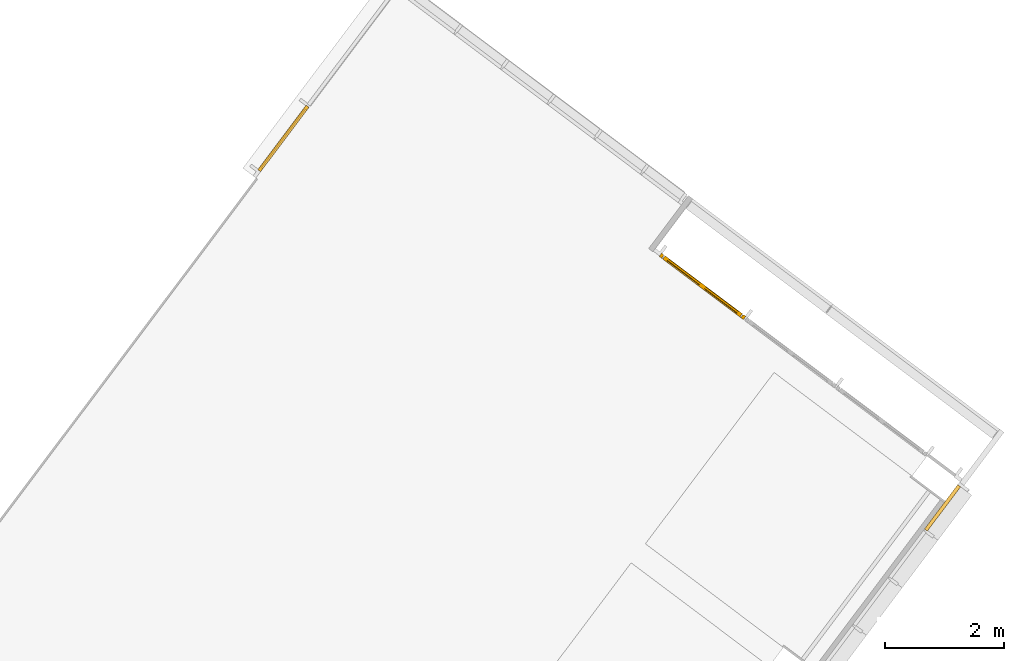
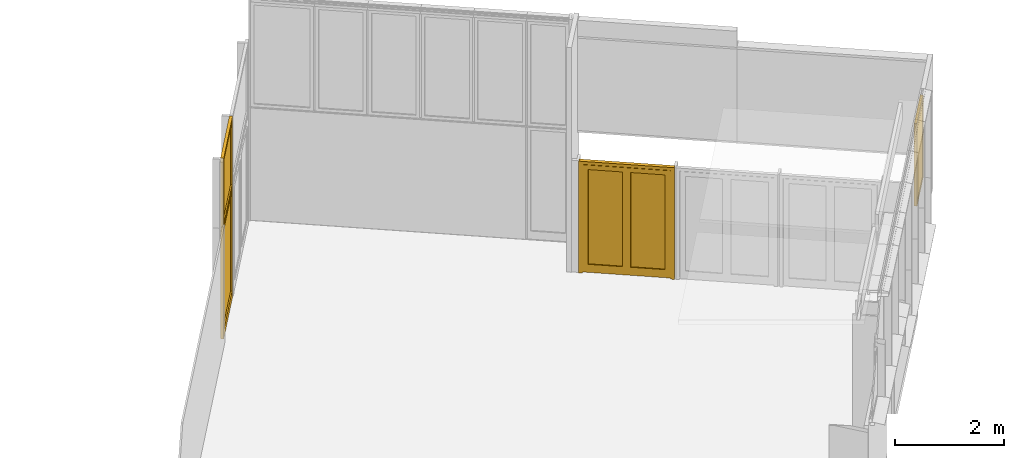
# One storey, part 12 of 15: 3 windows, 1 door, 3 elements without a shape of their own.
"""IFC2X3 building model written with IfcOpenShell, lengths in metres."""

import ifcopenshell
import ifcopenshell.guid

model = None  # the IFC model being written
_history = None  # IfcOwnerHistory: only IFC2X3 demands one
_inside = {}  # id of a spatial element -> (the spatial element, [elements in it])
_under = {}  # id of a project, library or spatial element -> (it, [spatial elements below it])
_declared = {}  # id of a project -> (the project, [libraries it declares])
_typed = {}  # id of a type object -> (the type object, [elements of that type])
_made_of = {}  # id of a material, layer set ... -> (it, [elements and type objects made of it])


def new_model(schema):
    """Start an empty IFC model of exactly this schema.

    Asked for "IFC4X3", IfcOpenShell would pick the latest addendum, in which some entities
    have other attributes; the version numbers below select the first issue.
    IFC2X3 requires an IfcOwnerHistory on every rooted entity: one is made here for all.
    """
    global model, _history
    if schema == "IFC4X3":
        model = ifcopenshell.file(schema_version=(4, 3, 0, 0))
    else:
        model = ifcopenshell.file(schema=schema)
    _inside.clear()
    _under.clear()
    _declared.clear()
    _typed.clear()
    _made_of.clear()
    _history = None
    if model.schema == "IFC2X3":
        org = make("IfcOrganization", Name="unknown")
        user = make(
            "IfcPersonAndOrganization",
            ThePerson=make("IfcPerson", FamilyName="unknown"),
            TheOrganization=org,
        )
        app = make(
            "IfcApplication",
            ApplicationDeveloper=org,
            Version="unknown",
            ApplicationFullName="unknown",
            ApplicationIdentifier="unknown",
        )
        _history = make(
            "IfcOwnerHistory",
            OwningUser=user,
            OwningApplication=app,
            ChangeAction="ADDED",
            CreationDate=0,
        )
    return model


def make(cls, **values):
    """One entity of the class cls with the attributes given. An attribute that is None is left unset."""
    return model.create_entity(
        cls, **{name: value for name, value in values.items() if value is not None}
    )


def entity(cls, *values):
    """Any entity or typed value of the class cls, its attributes in the order of the schema. None: left unset."""
    e = model.create_entity(cls)
    for i, value in enumerate(values):
        if value is not None:
            e[i] = value
    return e


def rooted(cls, **values):
    """An entity with a GlobalId (a new one), such as an element, a storey or a relation."""
    return make(cls, GlobalId=ifcopenshell.guid.new(), OwnerHistory=_history, **values)


def si_unit(unit_type, name, prefix=None):
    """IfcSIUnit, for example si_unit("LENGTHUNIT", "METRE", prefix="MILLI")."""
    return make("IfcSIUnit", UnitType=unit_type, Prefix=prefix, Name=name)


def converted_unit(unit_type, name, factor, base, dimensions=None, offset=None):
    """IfcConversionBasedUnit, such as the inch: factor (a typed value) times the base unit."""
    return make(
        "IfcConversionBasedUnit"
        if offset is None
        else "IfcConversionBasedUnitWithOffset",
        ConversionOffset=offset,
        Dimensions=None
        if dimensions is None
        else entity("IfcDimensionalExponents", *dimensions),
        UnitType=unit_type,
        Name=name,
        ConversionFactor=make(
            "IfcMeasureWithUnit", ValueComponent=factor, UnitComponent=base
        ),
    )


def derived_unit(unit_type, elements):
    """IfcDerivedUnit: a product of units, each with its exponent."""
    return make(
        "IfcDerivedUnit",
        Elements=[
            make("IfcDerivedUnitElement", Unit=unit, Exponent=power)
            for unit, power in elements
        ],
        UnitType=unit_type,
    )


def assignment(units):
    """IfcUnitAssignment: the units of a project."""
    return None if units is None else make("IfcUnitAssignment", Units=units)


def point(xyz):
    """IfcCartesianPoint."""
    return None if xyz is None else make("IfcCartesianPoint", Coordinates=xyz)


def direction(xyz):
    """IfcDirection."""
    return None if xyz is None else make("IfcDirection", DirectionRatios=xyz)


def frame(location, z_axis=None, x_axis=None):
    """IfcAxis2Placement3D, a coordinate frame: its origin and axes. An axis left out is left unset."""
    return make(
        "IfcAxis2Placement3D",
        Location=point(location),
        Axis=direction(z_axis),
        RefDirection=direction(x_axis),
    )


def origin():
    """The frame at (0, 0, 0) with its axes left unset."""
    return frame((0.0, 0.0, 0.0))


def place(relative_to, where):
    """IfcLocalPlacement: puts the frame where relative to a parent placement (None: the world)."""
    return make(
        "IfcLocalPlacement", PlacementRelTo=relative_to, RelativePlacement=where
    )


def context(
    kind, dimensions, precision=None, world=None, true_north=None, identifier=None
):
    """IfcGeometricRepresentationContext, for example the 3D "Model" context."""
    return make(
        "IfcGeometricRepresentationContext",
        ContextIdentifier=identifier,
        ContextType=kind,
        CoordinateSpaceDimension=dimensions,
        Precision=precision,
        WorldCoordinateSystem=world,
        TrueNorth=true_north,
    )


def subcontext(parent, identifier, kind, view, scale=None):
    """IfcGeometricRepresentationSubContext, for example "Body" below "Model"."""
    return make(
        "IfcGeometricRepresentationSubContext",
        ContextIdentifier=identifier,
        ContextType=kind,
        ParentContext=parent,
        TargetScale=scale,
        TargetView=view,
    )


def project(units=None, contexts=None):
    """IfcProject with its units and contexts."""
    return rooted(
        "IfcProject",
        Name="project",
        RepresentationContexts=contexts,
        UnitsInContext=assignment(units),
    )


def spatial(cls, under=None, at=None, **own):
    """A site, building, storey or space (cls), placed at a placement, below another one or the project."""
    s = rooted(cls, ObjectPlacement=at, **own)
    if under is not None:
        _under.setdefault(under.id(), (under, []))[1].append(s)
    return s


def faces_of(points, faces, orient=None, outer=None):
    """IfcFace entities. A face is a list of loops; a loop is a list of indices into points, from 0.

    orient and outer hold one flag for each loop. By default every Orientation is true, the
    first loop of a face is its IfcFaceOuterBound and the others are IfcFaceBound.
    """
    made = []
    for i, loops in enumerate(faces):
        bounds = []
        for j, loop in enumerate(loops):
            is_outer = j == 0 if outer is None else outer[i][j]
            bounds.append(
                make(
                    "IfcFaceOuterBound" if is_outer else "IfcFaceBound",
                    Bound=make("IfcPolyLoop", Polygon=[points[k] for k in loop]),
                    Orientation=True if orient is None else orient[i][j],
                )
            )
        made.append(make("IfcFace", Bounds=bounds))
    return made


def faceted_brep(points, faces, orient=None, outer=None, voids=None):
    """IfcFacetedBrep: a solid bounded by flat faces; with voids (closed shells), ...WithVoids."""
    shared = [point(p) for p in points]
    hull = make("IfcClosedShell", CfsFaces=faces_of(shared, faces, orient, outer))
    if voids is None:
        return make("IfcFacetedBrep", Outer=hull)
    return make(
        "IfcFacetedBrepWithVoids",
        Outer=hull,
        Voids=[
            make(cls, CfsFaces=faces_of(shared, fs, o, b)) for cls, fs, o, b in voids
        ],
    )


def shape(context_of_items, identifier, shape_type, items):
    """IfcShapeRepresentation: the items that make up one representation, for example the "Body"."""
    return make(
        "IfcShapeRepresentation",
        ContextOfItems=context_of_items,
        RepresentationIdentifier=identifier,
        RepresentationType=shape_type,
        Items=items,
    )


def source(mapping_origin, context_of_items, identifier, shape_type, items):
    """IfcRepresentationMap: a shape defined once, which mapped items show again and again."""
    return make(
        "IfcRepresentationMap",
        MappingOrigin=mapping_origin,
        MappedRepresentation=shape(context_of_items, identifier, shape_type, items),
    )


def transform(
    local_origin,
    x_axis=None,
    y_axis=None,
    z_axis=None,
    scale=None,
    scale2=None,
    scale3=None,
    uniform=True,
):
    """IfcCartesianTransformationOperator3D, or its non-uniform kind. x_axis, y_axis, z_axis: its Axis1, 2, 3."""
    if uniform:
        return make(
            "IfcCartesianTransformationOperator3D",
            Axis1=direction(x_axis),
            Axis2=direction(y_axis),
            LocalOrigin=point(local_origin),
            Scale=scale,
            Axis3=direction(z_axis),
        )
    return make(
        "IfcCartesianTransformationOperator3DnonUniform",
        Axis1=direction(x_axis),
        Axis2=direction(y_axis),
        LocalOrigin=point(local_origin),
        Scale=scale,
        Axis3=direction(z_axis),
        Scale2=scale2,
        Scale3=scale3,
    )


def mapped(mapping_source, mapping_target):
    """IfcMappedItem: shows the shape of a source again, moved by a transform."""
    return make(
        "IfcMappedItem", MappingSource=mapping_source, MappingTarget=mapping_target
    )


def material(Name=None, Category=None):
    """IfcMaterial."""
    return make("IfcMaterial", Name=Name, Category=Category)


def material_list(materials):
    """IfcMaterialList."""
    return make("IfcMaterialList", Materials=materials)


def made_of(thing, what):
    """Note that an element or type object is made of a material, layer set ...; save() writes the relation."""
    if what is not None:
        _made_of.setdefault(what.id(), (what, []))[1].append(thing)
    return thing


def type_object(cls, material=None, **own):
    """A type object (cls), such as IfcWallType, which elements share."""
    return made_of(rooted(cls, **own), material)


def type_shapes(of_type, sources):
    """Give a type object the sources (RepresentationMaps) that its elements show as mapped items."""
    of_type.RepresentationMaps = sources


def element(
    cls,
    number,
    at=None,
    inside=None,
    cuts=None,
    type_object=None,
    material=None,
    context=None,
    identifier="Body",
    shape_type=None,
    held_by="IfcProductDefinitionShape",
    body=None,
    shapes=None,
    **own,
):
    """One element of the class cls, such as IfcWall. Its Tag is "e" and its number.

    at: its placement. inside: the storey or other place that contains it. cuts: it is an
    opening in that element (IfcRelVoidsElement). A single representation is given by context,
    identifier, shape_type and body (its items); several are given by shapes. held_by: the class
    of the entity that holds the representations. save() writes the other relations.
    """
    e = rooted(cls, Tag="e%d" % number, ObjectPlacement=at, **own)
    if body is not None:
        shapes = [shape(context, identifier, shape_type, body)]
    if shapes is not None:
        e.Representation = make(held_by, Representations=shapes)
    if inside is not None:
        _inside.setdefault(inside.id(), (inside, []))[1].append(e)
    if cuts is not None:
        rooted(
            "IfcRelVoidsElement", RelatingBuildingElement=cuts, RelatedOpeningElement=e
        )
    if type_object is not None:
        _typed.setdefault(type_object.id(), (type_object, []))[1].append(e)
    return made_of(e, material)


def aggregate(whole, parts):
    """IfcRelAggregates: a whole, such as a stair, and the parts it consists of."""
    return rooted("IfcRelAggregates", RelatingObject=whole, RelatedObjects=parts)


def save(model, path):
    """Write the relations noted so far, then the file.

    IfcRelAggregates (storeys below a building ...), IfcRelContainedInSpatialStructure (elements
    in a storey), IfcRelDefinesByType, IfcRelAssociatesMaterial and IfcRelDeclares: one each for
    every whole, place, type object, material and project.
    """
    for whole, parts in _under.values():
        aggregate(whole, parts)
    for where, things in _inside.values():
        rooted(
            "IfcRelContainedInSpatialStructure",
            RelatedElements=things,
            RelatingStructure=where,
        )
    for kind, things in _typed.values():
        rooted("IfcRelDefinesByType", RelatedObjects=things, RelatingType=kind)
    for what, things in _made_of.values():
        rooted("IfcRelAssociatesMaterial", RelatedObjects=things, RelatingMaterial=what)
    for by, libraries in _declared.values():
        rooted("IfcRelDeclares", RelatingContext=by, RelatedDefinitions=libraries)
    model.write(path)


model = new_model("IFC2X3")

# Units and contexts
model_context = context("Model", 3, precision=1e-05, world=origin(), true_north=direction((6.123031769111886e-17, 1.0)))
body_context = subcontext(model_context, "Body", "Model", "MODEL_VIEW")
ifc_project = project(units=[si_unit("LENGTHUNIT", "METRE"), si_unit("AREAUNIT", "SQUARE_METRE"), si_unit("VOLUMEUNIT", "CUBIC_METRE"), converted_unit("PLANEANGLEUNIT", "DEGREE", entity("IfcRatioMeasure", 0.017453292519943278), si_unit("PLANEANGLEUNIT", "RADIAN"), dimensions=[0, 0, 0, 0, 0, 0, 0]), si_unit("MASSUNIT", "GRAM", prefix="KILO"), derived_unit("MASSDENSITYUNIT", [(si_unit("MASSUNIT", "GRAM", prefix="KILO"), 1), (si_unit("LENGTHUNIT", "METRE"), -3)]), derived_unit("IONCONCENTRATIONUNIT", [(si_unit("MASSUNIT", "GRAM", prefix="KILO"), 1), (si_unit("LENGTHUNIT", "METRE"), -3)]), derived_unit("MOMENTOFINERTIAUNIT", [(si_unit("LENGTHUNIT", "METRE"), 4)]), si_unit("TIMEUNIT", "SECOND"), si_unit("FREQUENCYUNIT", "HERTZ"), si_unit("THERMODYNAMICTEMPERATUREUNIT", "DEGREE_CELSIUS"), derived_unit("THERMALTRANSMITTANCEUNIT", [(si_unit("MASSUNIT", "GRAM", prefix="KILO"), 1), (si_unit("THERMODYNAMICTEMPERATUREUNIT", "KELVIN"), -1), (si_unit("TIMEUNIT", "SECOND"), -3)]), derived_unit("THERMALCONDUCTANCEUNIT", [(si_unit("MASSUNIT", "GRAM", prefix="KILO"), 1), (si_unit("THERMODYNAMICTEMPERATUREUNIT", "KELVIN"), -1), (si_unit("TIMEUNIT", "SECOND"), -3), (si_unit("LENGTHUNIT", "METRE"), 1)]), derived_unit("VOLUMETRICFLOWRATEUNIT", [(si_unit("LENGTHUNIT", "METRE"), 3), (si_unit("TIMEUNIT", "SECOND"), -1)]), derived_unit("MASSFLOWRATEUNIT", [(si_unit("MASSUNIT", "GRAM", prefix="KILO"), 1), (si_unit("TIMEUNIT", "SECOND"), -1)]), derived_unit("ROTATIONALFREQUENCYUNIT", [(si_unit("TIMEUNIT", "SECOND"), -1)]), si_unit("ELECTRICCURRENTUNIT", "AMPERE"), si_unit("ELECTRICVOLTAGEUNIT", "VOLT"), si_unit("POWERUNIT", "WATT"), si_unit("FORCEUNIT", "NEWTON", prefix="KILO"), si_unit("ILLUMINANCEUNIT", "LUX"), si_unit("LUMINOUSFLUXUNIT", "LUMEN"), si_unit("LUMINOUSINTENSITYUNIT", "CANDELA"), derived_unit("USERDEFINED", [(si_unit("MASSUNIT", "GRAM", prefix="KILO"), -1), (si_unit("LENGTHUNIT", "METRE"), -2), (si_unit("TIMEUNIT", "SECOND"), 3), (si_unit("LUMINOUSFLUXUNIT", "LUMEN"), 1)]), derived_unit("USERDEFINED", [(si_unit("MASSUNIT", "GRAM", prefix="KILO"), 1), (si_unit("TIMEUNIT", "SECOND"), -3), (si_unit("LENGTHUNIT", "METRE"), 3), (si_unit("ELECTRICCURRENTUNIT", "AMPERE"), -2)]), derived_unit("SOUNDPOWERUNIT", [(si_unit("MASSUNIT", "GRAM", prefix="KILO"), 1), (si_unit("TIMEUNIT", "SECOND"), -3), (si_unit("LENGTHUNIT", "METRE"), 2)]), derived_unit("SOUNDPRESSUREUNIT", [(si_unit("MASSUNIT", "GRAM", prefix="KILO"), 1), (si_unit("LENGTHUNIT", "METRE"), -1), (si_unit("TIMEUNIT", "SECOND"), -2)]), derived_unit("LINEARVELOCITYUNIT", [(si_unit("LENGTHUNIT", "METRE"), 1), (si_unit("TIMEUNIT", "SECOND"), -1)]), si_unit("PRESSUREUNIT", "PASCAL"), derived_unit("USERDEFINED", [(si_unit("MASSUNIT", "GRAM", prefix="KILO"), 1), (si_unit("LENGTHUNIT", "METRE"), -2), (si_unit("TIMEUNIT", "SECOND"), -2)]), derived_unit("LINEARFORCEUNIT", [(si_unit("MASSUNIT", "GRAM", prefix="KILO"), 1), (si_unit("TIMEUNIT", "SECOND"), -2)]), derived_unit("PLANARFORCEUNIT", [(si_unit("MASSUNIT", "GRAM", prefix="KILO"), 1), (si_unit("LENGTHUNIT", "METRE"), -1), (si_unit("TIMEUNIT", "SECOND"), -2)]), derived_unit("SPECIFICHEATCAPACITYUNIT", [(si_unit("THERMODYNAMICTEMPERATUREUNIT", "KELVIN"), -1), (si_unit("LENGTHUNIT", "METRE"), 2), (si_unit("TIMEUNIT", "SECOND"), -2)]), derived_unit("HEATINGVALUEUNIT", [(si_unit("LENGTHUNIT", "METRE"), 2), (si_unit("TIMEUNIT", "SECOND"), -2)]), derived_unit("VAPORPERMEABILITYUNIT", [(si_unit("LENGTHUNIT", "METRE"), -1), (si_unit("TIMEUNIT", "SECOND"), 1)]), derived_unit("DYNAMICVISCOSITYUNIT", [(si_unit("MASSUNIT", "GRAM", prefix="KILO"), 1), (si_unit("TIMEUNIT", "SECOND"), -1), (si_unit("LENGTHUNIT", "METRE"), -1)]), derived_unit("THERMALEXPANSIONCOEFFICIENTUNIT", [(si_unit("THERMODYNAMICTEMPERATUREUNIT", "KELVIN"), -1)]), derived_unit("MODULUSOFELASTICITYUNIT", [(si_unit("MASSUNIT", "GRAM", prefix="KILO"), 1), (si_unit("LENGTHUNIT", "METRE"), -1), (si_unit("TIMEUNIT", "SECOND"), -2)]), derived_unit("ISOTHERMALMOISTURECAPACITYUNIT", [(si_unit("LENGTHUNIT", "METRE"), 3), (si_unit("MASSUNIT", "GRAM", prefix="KILO"), -1)]), derived_unit("MOISTUREDIFFUSIVITYUNIT", [(si_unit("TIMEUNIT", "SECOND"), -1), (si_unit("LENGTHUNIT", "METRE"), 2)])], contexts=[model_context])

# Site, building, storey
site_placement = place(None, frame((0.0, 0.0, 235.0), z_axis=(0.0, 0.0, 1.0), x_axis=(-0.7996477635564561, 0.6004693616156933, 0.0)))
site = spatial("IfcSite", under=ifc_project, at=site_placement, Name="Default", CompositionType="ELEMENT")
building_placement = place(site_placement, origin())
building = spatial("IfcBuilding", under=site, at=building_placement, CompositionType="ELEMENT")
storey_placement = place(building_placement, frame((0.0, 0.0, -5.4499999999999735)))
storey = spatial("IfcBuildingStorey", under=building, at=storey_placement, Name="PS1- Gimnàs", CompositionType="ELEMENT", Elevation=-5.4499999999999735)

# Curtain wall, windows
curtain_wall_type_1 = type_object("IfcCurtainWallType", Name="Muro cortina:MC- EXT- MCv1- Portes", PredefinedType="NOTDEFINED")
curtain_wall_1_placement = place(storey_placement, frame((0.0, 0.0, 5.4499999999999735)))
curtain_wall_1 = element("IfcCurtainWall", 1, at=curtain_wall_1_placement, inside=storey, type_object=curtain_wall_type_1, Name="Muro cortina:MC- EXT- MCv1- Portes", ObjectType="Muro cortina:MC- EXT- MCv1- Portes")
ifc_material_1 = material(Name="_Alumini- T1- Perfil")
ifc_material_2 = material(Name="_Vidre")
ifc_material_list_1 = material_list([ifc_material_1, ifc_material_2])
window_style_1 = type_object("IfcWindowStyle", Name="MC- Alu- Conjunt vidre fix- 62x60 cm- +15cm:MC- Alu- Conjunt vidre fix- 62x60 cm- +15cm", ConstructionType="NOTDEFINED", OperationType="NOTDEFINED", ParameterTakesPrecedence=False, Sizeable=False, material=ifc_material_list_1)
shared_shape_1 = source(origin(), body_context, "Body", "Brep", [
    faceted_brep([(0.6768749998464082, -0.05999999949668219, 0.0), (0.6768749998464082, 0.0, 0.0), (0.6768749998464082, 0.0, 2.499999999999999), (0.6768749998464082, -0.059999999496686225, 2.499999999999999), (-0.6768749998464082, 0.0, 0.0), (-0.6768749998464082, -0.05999999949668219, 0.0), (-0.6768749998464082, 0.0, 2.499999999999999), (-0.6140681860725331, 0.0, 0.1800028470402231), (0.6140681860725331, 0.0, 0.1800028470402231), (0.6140681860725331, 0.0, 2.437193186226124), (-0.6140681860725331, 0.0, 2.437193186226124), (-0.6768749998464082, -0.05999999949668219, 2.499999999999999), (0.6140710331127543, -0.05999999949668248, 0.18000000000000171), (-0.6140710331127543, -0.05999999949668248, 0.18000000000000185), (-0.6140710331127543, -0.05999999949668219, 2.4371960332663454), (0.6140710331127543, -0.05999999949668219, 2.4371960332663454), (-0.6140681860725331, -0.00760005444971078, 0.180002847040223), (0.6140681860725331, -0.007600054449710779, 0.18000284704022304), (0.6140681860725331, -0.007600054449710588, 2.437193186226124), (-0.6140681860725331, -0.007600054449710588, 2.437193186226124), (0.6280682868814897, -0.0076000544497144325, 2.4511932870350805), (-0.6280682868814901, -0.0076000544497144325, 2.4511932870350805), (-0.6280682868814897, -0.0076000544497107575, 0.16619603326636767), (0.6280682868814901, -0.0076000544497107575, 0.16619603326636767), (-0.6280682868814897, -0.031600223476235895, 2.4511932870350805), (-0.6280682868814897, -0.03160022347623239, 0.16619603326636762), (0.6280682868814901, -0.03160022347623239, 0.16619603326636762), (0.6280682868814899, -0.03160022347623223, 2.4511932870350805), (-0.6140710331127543, -0.03160022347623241, 0.1800000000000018), (0.6140710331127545, -0.03160022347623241, 0.1800000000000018), (0.6140710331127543, -0.031600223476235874, 2.4371960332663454), (-0.6140710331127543, -0.031600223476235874, 2.4371960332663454)], [[[0, 1, 2, 3]], [[4, 1, 0, 5]], [[2, 1, 4, 6], [7, 8, 9, 10]], [[0, 3, 11, 5], [12, 13, 14, 15]], [[11, 6, 4, 5]], [[8, 7, 16, 17]], [[18, 9, 8, 17]], [[10, 19, 16, 7]], [[17, 16, 19, 18], [20, 21, 22, 23]], [[22, 21, 24, 25]], [[23, 22, 25, 26]], [[26, 27, 20, 23]], [[28, 29, 30, 31], [24, 27, 26, 25]], [[29, 28, 13, 12]], [[15, 30, 29, 12]], [[31, 14, 13, 28]], [[3, 2, 6, 11]], [[9, 18, 19, 10]], [[20, 27, 24, 21]], [[30, 15, 14, 31]]], outer=[[True], [True], [True, False], [True, False], [True], [True], [True], [True], [False, True], [True], [True], [True], [False, True], [True], [True], [True], [True], [True], [True], [True]]),
    faceted_brep([(-0.6280682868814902, -0.007600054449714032, 0.1661960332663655), (0.6280682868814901, -0.007600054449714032, 0.1661960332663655), (0.6280682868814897, -0.03160022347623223, 0.1661960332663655), (-0.6280682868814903, -0.03160022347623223, 0.1661960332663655), (-0.6280682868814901, -0.007600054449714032, 2.4509999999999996), (0.6280682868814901, -0.007600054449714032, 2.4509999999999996), (0.6280682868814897, -0.03160022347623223, 2.4509999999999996), (-0.6280682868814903, -0.03160022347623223, 2.4509999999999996)], [[[0, 1, 2, 3]], [[4, 5, 1, 0]], [[5, 6, 2, 1]], [[6, 7, 3, 2]], [[7, 4, 0, 3]], [[4, 7, 6, 5]]]),
])
type_shapes(window_style_1, [shared_shape_1])
window_1_placement = place(curtain_wall_1_placement, frame((15.730147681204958, -36.18332381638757, -5.449999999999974), z_axis=(0.0, 0.0, 1.0), x_axis=(0.0, -1.0, 0.0)))
window_1 = element("IfcWindow", 2, at=window_1_placement, type_object=window_style_1, material=ifc_material_list_1, Name="MC- Alu- Conjunt vidre fix- 62x60 cm- +15cm:MC- Alu- Conjunt vidre fix- 62x60 cm- +15cm", ObjectType="MC- Alu- Conjunt vidre fix- 62x60 cm- +15cm:MC- Alu- Conjunt vidre fix- 62x60 cm- +15cm", OverallHeight=2.4999999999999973, OverallWidth=1.3537499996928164, context=body_context, shape_type="MappedRepresentation", body=[
    mapped(shared_shape_1, transform((0.0, 0.0, 0.0), scale=1.0)),
])
ifc_material_list_2 = material_list([ifc_material_2, ifc_material_1])
window_style_2 = type_object("IfcWindowStyle", Name="MC- Alu- Conjunt vidre fix- 62x60 cm:MC- Alu- Conjunt vidre fix- 62x60 cm", ConstructionType="NOTDEFINED", OperationType="NOTDEFINED", ParameterTakesPrecedence=False, Sizeable=False, material=ifc_material_list_2)
shared_shape_2 = source(origin(), body_context, "Body", "Brep", [
    faceted_brep([(-0.6280682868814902, -0.007600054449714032, 0.048806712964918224), (0.6280682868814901, -0.007600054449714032, 0.048806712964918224), (0.6280682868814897, -0.03160022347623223, 0.048806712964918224), (-0.6280682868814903, -0.03160022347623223, 0.048806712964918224), (-0.6280682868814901, -0.007600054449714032, 1.4965557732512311), (0.6280682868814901, -0.007600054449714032, 1.4965557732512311), (0.6280682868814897, -0.03160022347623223, 1.4965557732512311), (-0.6280682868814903, -0.03160022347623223, 1.4965557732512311)], [[[0, 1, 2, 3]], [[4, 5, 1, 0]], [[5, 6, 2, 1]], [[6, 7, 3, 2]], [[7, 4, 0, 3]], [[4, 7, 6, 5]]]),
    faceted_brep([(-0.6768749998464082, -0.05999999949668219, 1.545555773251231), (-0.6768749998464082, 0.0, 1.545555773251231), (-0.6768749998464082, 0.0, 0.0), (-0.6768749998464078, -0.05999999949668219, 0.0), (-0.6140681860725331, 0.0, 1.482748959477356), (-0.6140681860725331, 0.0, 0.06280681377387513), (0.6140681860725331, 0.0, 0.06280681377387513), (0.6140681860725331, 0.0, 1.482748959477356), (0.6768749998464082, 0.0, 1.545555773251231), (0.6768749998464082, 0.0, 0.0), (0.6768749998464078, -0.05999999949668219, 0.0), (0.6768749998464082, -0.05999999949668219, 1.545555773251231), (0.6140710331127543, -0.05999999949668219, 1.482751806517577), (0.6140710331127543, -0.05999999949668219, 0.06280396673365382), (-0.6140710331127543, -0.05999999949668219, 0.06280396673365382), (-0.6140710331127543, -0.05999999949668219, 1.482751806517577), (-0.6140710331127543, -0.03160022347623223, 1.482751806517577), (-0.6140710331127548, -0.03160022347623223, 0.06280396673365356), (0.6140710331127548, -0.03160022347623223, 0.06280396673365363), (0.6140710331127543, -0.03160022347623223, 1.482751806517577), (0.6280682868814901, -0.03160022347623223, 1.496749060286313), (0.6280682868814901, -0.03160022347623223, 0.048806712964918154), (-0.6280682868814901, -0.03160022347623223, 0.04880671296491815), (-0.6280682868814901, -0.03160022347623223, 1.496749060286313), (-0.6280682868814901, -0.007600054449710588, 1.496749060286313), (-0.6280682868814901, -0.007600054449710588, 0.04880671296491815), (0.6280682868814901, -0.007600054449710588, 0.048806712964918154), (0.6280682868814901, -0.007600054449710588, 1.496749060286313), (0.6140681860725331, -0.007600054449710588, 1.482748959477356), (0.6140681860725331, -0.007600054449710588, 0.06280681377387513), (-0.6140681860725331, -0.007600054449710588, 0.06280681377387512), (-0.6140681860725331, -0.007600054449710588, 1.482748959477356)], [[[0, 1, 2, 3]], [[4, 5, 6, 7], [8, 9, 2, 1]], [[3, 2, 9, 10]], [[0, 3, 10, 11], [12, 13, 14, 15]], [[16, 15, 14, 17]], [[17, 14, 13, 18]], [[16, 17, 18, 19], [20, 21, 22, 23]], [[24, 23, 22, 25]], [[25, 22, 21, 26]], [[24, 25, 26, 27], [28, 29, 30, 31]], [[4, 31, 30, 5]], [[5, 30, 29, 6]], [[10, 9, 8, 11]], [[18, 13, 12, 19]], [[26, 21, 20, 27]], [[6, 29, 28, 7]], [[11, 8, 1, 0]], [[19, 12, 15, 16]], [[27, 20, 23, 24]], [[7, 28, 31, 4]]], outer=[[True], [False, True], [True], [True, False], [True], [True], [False, True], [True], [True], [True, False], [True], [True], [True], [True], [True], [True], [True], [True], [True], [True]]),
])
type_shapes(window_style_2, [shared_shape_2])
window_2_placement = place(curtain_wall_1_placement, frame((15.730147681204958, -36.18332381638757, -2.9499999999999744), z_axis=(0.0, 0.0, 1.0), x_axis=(0.0, -1.0, 0.0)))
window_2 = element("IfcWindow", 3, at=window_2_placement, type_object=window_style_2, material=ifc_material_list_2, Name="MC- Alu- Conjunt vidre fix- 62x60 cm:MC- Alu- Conjunt vidre fix- 62x60 cm", ObjectType="MC- Alu- Conjunt vidre fix- 62x60 cm:MC- Alu- Conjunt vidre fix- 62x60 cm", OverallHeight=1.545555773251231, OverallWidth=1.3537499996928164, context=body_context, shape_type="MappedRepresentation", body=[
    mapped(shared_shape_2, transform((0.0, 0.0, 0.0), scale=1.0)),
])
aggregate(curtain_wall_1, [window_1, window_2])

# Curtain wall, door
curtain_wall_2_placement = place(storey_placement, frame((0.0, 0.0, 5.4499999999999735)))
curtain_wall_2 = element("IfcCurtainWall", 4, at=curtain_wall_2_placement, inside=storey, type_object=curtain_wall_type_1, Name="Muro cortina:MC- EXT- MCv1- Portes", ObjectType="Muro cortina:MC- EXT- MCv1- Portes")
door_style = type_object("IfcDoorStyle", Name="MC- Alu- Conjunt doble porta- 70x60 cm- +15cm- obertura ext:MC- Alu- Conjunt doble porta- 70x60 cm- +15cm- obertura ext", ConstructionType="NOTDEFINED", OperationType="DOUBLE_DOOR_SINGLE_SWING", ParameterTakesPrecedence=False, Sizeable=False, material=ifc_material_list_1)
shared_shape_3 = source(origin(), body_context, "Body", "Brep", [
    faceted_brep([(-0.8106282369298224, -0.06999999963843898, 0.02400000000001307), (-0.8106282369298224, -0.004300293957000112, 0.02400000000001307), (0.0, -0.004300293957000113, 0.02400000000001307), (0.0, -0.06999999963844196, 0.02400000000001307), (-0.8106282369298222, -0.00430029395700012, 2.426699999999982), (-0.8106282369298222, -0.06999999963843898, 2.426699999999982), (0.0, -0.00430029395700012, 2.4266999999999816), (0.0, -0.004300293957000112, 2.4506999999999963), (-0.8346282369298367, -0.00430029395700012, 2.4506999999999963), (-0.834628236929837, -0.00430029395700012, 0.0), (0.0, -0.004300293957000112, 0.0), (0.0, -0.06999999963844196, 2.4266999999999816), (0.0, -2.9457204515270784e-07, 0.0), (0.0, -2.9457204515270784e-07, 2.4506999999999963), (-0.709028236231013, -0.06999999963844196, 2.3250999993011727), (-0.07659999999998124, -0.06999999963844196, 2.3250999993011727), (-0.07659999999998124, -0.06999999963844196, 0.2036000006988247), (-0.709028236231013, -0.06999999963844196, 0.20360000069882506), (-0.07659999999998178, -0.005500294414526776, 2.3250999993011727), (-0.07659999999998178, -2.9457204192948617e-07, 2.3250999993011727), (-0.07659999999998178, -2.9457204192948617e-07, 0.20360000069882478), (-0.07659999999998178, -0.005500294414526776, 0.20360000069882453), (-0.8346282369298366, -2.9457204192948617e-07, 2.4506999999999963), (-0.8346282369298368, -2.9457204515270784e-07, 0.0), (-0.709028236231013, -2.9457204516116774e-07, 2.3250999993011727), (-0.709028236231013, -2.9457204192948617e-07, 0.20360000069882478), (-0.709028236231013, -0.005500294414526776, 0.2036000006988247), (-0.709028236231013, -0.005500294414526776, 2.3250999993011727), (-0.05159999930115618, -0.005500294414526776, 2.3500999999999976), (-0.7340282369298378, -0.005500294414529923, 2.3500999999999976), (-0.7340282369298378, -0.005500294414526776, 0.17859999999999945), (-0.05159999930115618, -0.005500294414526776, 0.17859999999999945), (-0.7340282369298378, -0.051000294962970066, 2.3500999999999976), (-0.7340282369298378, -0.05100029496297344, 0.17859999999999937), (-0.05159999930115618, -0.051000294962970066, 0.17859999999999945), (-0.05159999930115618, -0.051000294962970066, 2.3500999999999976), (-0.07659999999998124, -0.051000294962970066, 2.3250999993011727), (-0.709028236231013, -0.05100029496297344, 2.3250999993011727), (-0.709028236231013, -0.051000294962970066, 0.20360000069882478), (-0.07659999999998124, -0.051000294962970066, 0.20360000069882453)], [[[0, 1, 2, 3]], [[4, 1, 0, 5]], [[6, 7, 8, 9, 10, 2, 1, 4]], [[7, 6, 11, 3, 2, 10, 12, 13]], [[14, 15, 16, 17], [11, 5, 0, 3]], [[18, 19, 20, 21]], [[22, 13, 12, 23], [19, 24, 25, 20]], [[26, 21, 20, 25]], [[27, 18, 21, 26], [28, 29, 30, 31]], [[24, 27, 26, 25]], [[29, 32, 33, 30]], [[34, 31, 30, 33]], [[35, 28, 31, 34]], [[32, 35, 34, 33], [36, 37, 38, 39]], [[37, 14, 17, 38]], [[17, 16, 39, 38]], [[15, 36, 39, 16]], [[9, 23, 12, 10]], [[8, 22, 23, 9]], [[4, 5, 11, 6]], [[7, 13, 22, 8]], [[27, 24, 19, 18]], [[32, 29, 28, 35]], [[14, 37, 36, 15]]], outer=[[True], [True], [True], [True], [False, True], [True], [True, False], [True], [False, True], [True], [True], [True], [True], [True, False], [True], [True], [True], [True], [True], [True], [True], [True], [True], [True]]),
    faceted_brep([(0.8106282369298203, -0.0043002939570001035, 0.024000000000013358), (0.8106282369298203, -0.069999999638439, 0.024000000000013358), (0.0, -0.06999999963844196, 0.024000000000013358), (0.0, -0.004300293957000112, 0.024000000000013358), (0.8346282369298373, -0.0043002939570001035, 0.0), (0.8346282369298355, -0.004300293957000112, 2.4506999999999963), (0.0, -0.004300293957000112, 2.4506999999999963), (0.0, -0.004300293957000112, 2.426699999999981), (0.8106282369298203, -0.004300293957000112, 2.426699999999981), (0.0, -0.0043002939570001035, 0.0), (0.8106282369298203, -0.069999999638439, 2.426699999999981), (0.0, -0.069999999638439, 2.426699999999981), (0.07659999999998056, -0.06999999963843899, 2.325099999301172), (0.7090282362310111, -0.069999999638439, 2.3250999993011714), (0.7090282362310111, -0.069999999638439, 0.20360000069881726), (0.07659999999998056, -0.06999999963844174, 0.20360000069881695), (0.0, -2.9457204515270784e-07, 2.4506999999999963), (0.0, -2.9457204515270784e-07, 0.0), (0.7090282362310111, -2.9457204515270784e-07, 2.3250999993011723), (0.07659999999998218, -2.9457204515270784e-07, 2.3250999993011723), (0.07659999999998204, -2.9457204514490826e-07, 0.20360000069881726), (0.7090282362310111, -2.9457204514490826e-07, 0.20360000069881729), (0.8346282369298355, -2.9457204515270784e-07, 2.4506999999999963), (0.8346282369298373, -2.9457204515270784e-07, 0.0), (0.7090282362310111, -0.005500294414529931, 2.3250999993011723), (0.7090282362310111, -0.005500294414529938, 0.20360000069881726), (0.07659999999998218, -0.005500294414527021, 0.20360000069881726), (0.7340282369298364, -0.005500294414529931, 2.3500999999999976), (0.0515999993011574, -0.005500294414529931, 2.3500999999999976), (0.0515999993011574, -0.005500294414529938, 0.17859999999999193), (0.7340282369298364, -0.005500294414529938, 0.17859999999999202), (0.07659999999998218, -0.005500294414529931, 2.325099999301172), (0.7340282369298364, -0.05100029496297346, 2.3500999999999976), (0.7340282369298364, -0.05100029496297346, 0.17859999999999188), (0.7090282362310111, -0.05100029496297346, 2.3250999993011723), (0.07659999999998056, -0.05100029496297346, 2.3250999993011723), (0.07659999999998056, -0.05100029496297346, 0.20360000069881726), (0.7090282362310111, -0.05100029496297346, 0.20360000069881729), (0.0515999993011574, -0.051000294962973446, 2.350099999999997), (0.0515999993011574, -0.051000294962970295, 0.17859999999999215)], [[[0, 1, 2, 3]], [[4, 5, 6, 7, 8, 0, 3, 9]], [[1, 0, 8, 10]], [[10, 11, 2, 1], [12, 13, 14, 15]], [[6, 16, 17, 9, 3, 2, 11, 7]], [[18, 19, 20, 21], [17, 16, 22, 23]], [[22, 5, 4, 23]], [[24, 18, 21, 25]], [[21, 20, 26, 25]], [[27, 28, 29, 30], [31, 24, 25, 26]], [[32, 27, 30, 33]], [[34, 35, 36, 37], [38, 32, 33, 39]], [[33, 30, 29, 39]], [[13, 34, 37, 14]], [[37, 36, 15, 14]], [[19, 31, 26, 20]], [[28, 38, 39, 29]], [[35, 12, 15, 36]], [[5, 22, 16, 6]], [[18, 24, 31, 19]], [[27, 32, 38, 28]], [[34, 13, 12, 35]], [[10, 8, 7, 11]], [[9, 17, 23, 4]]], outer=[[True], [True], [True], [True, False], [True], [False, True], [True], [True], [True], [True, False], [True], [False, True], [True], [True], [True], [True], [True], [True], [True], [True], [True], [True], [True], [True]]),
    faceted_brep([(0.05159999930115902, -0.009100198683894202, 0.17859999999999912), (0.7340282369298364, -0.009100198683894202, 0.17859999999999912), (0.7340282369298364, -0.04110019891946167, 0.17859999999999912), (0.05159999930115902, -0.04110019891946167, 0.17859999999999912), (0.05159999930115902, -0.009100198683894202, 2.375100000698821), (0.7340282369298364, -0.009100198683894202, 2.375100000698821), (0.7340282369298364, -0.04110019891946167, 2.375100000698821), (0.05159999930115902, -0.04110019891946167, 2.375100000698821)], [[[0, 1, 2, 3]], [[4, 5, 1, 0]], [[5, 6, 2, 1]], [[6, 7, 3, 2]], [[7, 4, 0, 3]], [[4, 7, 6, 5]]]),
    faceted_brep([(-0.05159999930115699, -0.009100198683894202, 0.17859999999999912), (-0.05159999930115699, -0.04110019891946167, 0.17859999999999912), (-0.7340282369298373, -0.04110019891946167, 0.17859999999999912), (-0.7340282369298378, -0.009100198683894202, 0.17859999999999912), (-0.05159999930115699, -0.009100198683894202, 2.375100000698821), (-0.05159999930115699, -0.04110019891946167, 2.375100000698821), (-0.7340282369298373, -0.04110019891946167, 2.375100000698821), (-0.7340282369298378, -0.009100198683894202, 2.375100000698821)], [[[0, 1, 2, 3]], [[4, 5, 1, 0]], [[5, 6, 2, 1]], [[6, 7, 3, 2]], [[7, 4, 0, 3]], [[4, 7, 6, 5]]]),
    faceted_brep([(0.8839282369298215, 0.0, 0.0), (0.8839282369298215, -0.06999999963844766, 0.0), (0.8166282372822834, -0.06999999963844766, 0.0), (0.8166282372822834, -0.061199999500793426, 0.0), (0.8321282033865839, -0.061199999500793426, 0.0), (0.8321282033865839, -0.010300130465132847, 0.0), (0.8426282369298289, -0.010300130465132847, 0.0), (0.8426282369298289, 0.0, 0.0), (0.8839282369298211, 0.0, 2.499999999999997), (0.8839282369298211, -0.06999999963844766, 2.499999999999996), (-0.8839282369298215, -0.06999999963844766, 2.499999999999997), (-0.8839282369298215, -0.06999999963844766, 0.0), (-0.8166282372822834, -0.06999999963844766, 0.0), (-0.8166282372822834, -0.06999999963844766, 2.4327000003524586), (0.8166282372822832, -0.06999999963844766, 2.432700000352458), (0.8166282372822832, -0.061199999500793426, 2.432700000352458), (-0.8166282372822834, -0.061199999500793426, 2.4327000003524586), (-0.8166282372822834, -0.061199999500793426, 0.0), (-0.8321282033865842, -0.061199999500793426, 0.0), (-0.8321282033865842, -0.061199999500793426, 2.4481999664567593), (0.8321282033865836, -0.061199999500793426, 2.4481999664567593), (0.8321282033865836, -0.010300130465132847, 2.4481999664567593), (-0.8321282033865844, -0.010300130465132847, 2.4481999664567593), (-0.8321282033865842, -0.010300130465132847, 0.0), (-0.8426282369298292, -0.010300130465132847, 0.0), (-0.8426282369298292, -0.010300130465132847, 2.4587000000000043), (0.8426282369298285, -0.010300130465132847, 2.4587000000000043), (0.8426282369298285, 0.0, 2.4587000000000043), (-0.8426282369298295, 0.0, 2.4587000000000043), (-0.8426282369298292, 0.0, 0.0), (-0.8839282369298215, 0.0, 0.0), (-0.8839282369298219, 0.0, 2.4999999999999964)], [[[0, 1, 2, 3, 4, 5, 6, 7]], [[1, 0, 8, 9]], [[2, 1, 9, 10, 11, 12, 13, 14]], [[3, 2, 14, 15]], [[4, 3, 15, 16, 17, 18, 19, 20]], [[5, 4, 20, 21]], [[6, 5, 21, 22, 23, 24, 25, 26]], [[7, 6, 26, 27]], [[0, 7, 27, 28, 29, 30, 31, 8]], [[30, 29, 24, 23, 18, 17, 12, 11]], [[28, 25, 24, 29]], [[22, 19, 18, 23]], [[16, 13, 12, 17]], [[10, 31, 30, 11]], [[9, 8, 31, 10]], [[15, 14, 13, 16]], [[21, 20, 19, 22]], [[27, 26, 25, 28]]]),
])
type_shapes(door_style, [shared_shape_3])
door_placement = place(curtain_wall_2_placement, frame((8.575969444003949, -38.46019175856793, -5.449999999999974), z_axis=(0.0, 0.0, 1.0), x_axis=(-1.0, 0.0, 0.0)))
door = element("IfcDoor", 5, at=door_placement, type_object=door_style, material=ifc_material_list_1, Name="MC- Alu- Conjunt doble porta- 70x60 cm- +15cm- obertura ext:MC- Alu- Conjunt doble porta- 70x60 cm- +15cm- obertura ext", ObjectType="MC- Alu- Conjunt doble porta- 70x60 cm- +15cm- obertura ext:MC- Alu- Conjunt doble porta- 70x60 cm- +15cm- obertura ext", OverallHeight=2.499999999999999, OverallWidth=1.7678564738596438, context=body_context, shape_type="MappedRepresentation", body=[
    mapped(shared_shape_3, transform((0.0, 0.0, 0.0), scale=1.0)),
])
aggregate(curtain_wall_2, [door])

# Curtain wall, window
curtain_wall_type_2 = type_object("IfcCurtainWallType", Name="Muro cortina:MC- EXT- MCv1- lateral", PredefinedType="NOTDEFINED")
curtain_wall_3_placement = place(storey_placement, frame((0.0, 0.0, 5.4499999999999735)))
curtain_wall_3 = element("IfcCurtainWall", 6, at=curtain_wall_3_placement, inside=storey, type_object=curtain_wall_type_2, Name="Muro cortina:MC- EXT- MCv1- lateral", ObjectType="Muro cortina:MC- EXT- MCv1- lateral")
window_style_3 = type_object("IfcWindowStyle", Name="MC- Alu- Conjunt vidre fix- 62x60 cm:MC- Alu- Conjunt vidre fix- 62x60 cm", ConstructionType="NOTDEFINED", OperationType="NOTDEFINED", ParameterTakesPrecedence=False, Sizeable=False, material=ifc_material_list_2)
shared_shape_4 = source(origin(), body_context, "Body", "Brep", [
    faceted_brep([(-0.41720266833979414, -0.007600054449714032, 0.048806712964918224), (0.41720266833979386, -0.007600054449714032, 0.048806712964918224), (0.41720266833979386, -0.03160022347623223, 0.048806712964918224), (-0.41720266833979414, -0.03160022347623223, 0.048806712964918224), (-0.41720266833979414, -0.007600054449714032, 1.798499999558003), (0.41720266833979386, -0.007600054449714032, 1.798499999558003), (0.41720266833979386, -0.03160022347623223, 1.798499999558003), (-0.41720266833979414, -0.03160022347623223, 1.798499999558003)], [[[0, 1, 2, 3]], [[4, 5, 1, 0]], [[5, 6, 2, 1]], [[6, 7, 3, 2]], [[7, 4, 0, 3]], [[4, 7, 6, 5]]]),
    faceted_brep([(-0.46600938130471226, -0.05999999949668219, 1.847499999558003), (-0.46600938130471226, 0.0, 1.847499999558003), (-0.46600938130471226, 0.0, 0.0), (-0.4660093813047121, -0.05999999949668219, 0.0), (-0.40320256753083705, 0.0, 1.784693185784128), (-0.40320256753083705, 0.0, 0.06280681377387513), (0.4032025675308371, 0.0, 0.06280681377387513), (0.40320256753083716, 0.0, 1.784693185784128), (0.46600938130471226, 0.0, 1.847499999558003), (0.46600938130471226, 0.0, 0.0), (0.4660093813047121, -0.05999999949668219, 0.0), (0.46600938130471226, -0.05999999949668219, 1.847499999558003), (0.40320541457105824, -0.05999999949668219, 1.7846960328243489), (0.4032054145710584, -0.05999999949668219, 0.06280396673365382), (-0.4032054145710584, -0.05999999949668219, 0.06280396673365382), (-0.4032054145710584, -0.05999999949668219, 1.7846960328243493), (-0.4032054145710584, -0.03160022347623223, 1.7846960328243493), (-0.40320541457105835, -0.03160022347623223, 0.06280396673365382), (0.40320541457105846, -0.03160022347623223, 0.06280396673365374), (0.4032054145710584, -0.03160022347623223, 1.7846960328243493), (0.4172026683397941, -0.03160022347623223, 1.798693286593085), (0.4172026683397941, -0.03160022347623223, 0.048806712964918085), (-0.41720266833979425, -0.03160022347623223, 0.04880671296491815), (-0.4172026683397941, -0.03160022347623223, 1.798693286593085), (-0.4172026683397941, -0.007600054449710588, 1.798693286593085), (-0.41720266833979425, -0.007600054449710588, 0.04880671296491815), (0.4172026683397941, -0.007600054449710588, 0.048806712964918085), (0.4172026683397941, -0.007600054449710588, 1.798693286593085), (0.4032025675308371, -0.007600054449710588, 1.784693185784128), (0.4032025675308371, -0.007600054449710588, 0.06280681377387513), (-0.4032025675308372, -0.007600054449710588, 0.06280681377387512), (-0.40320256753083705, -0.007600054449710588, 1.784693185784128)], [[[0, 1, 2, 3]], [[4, 5, 6, 7], [8, 9, 2, 1]], [[3, 2, 9, 10]], [[0, 3, 10, 11], [12, 13, 14, 15]], [[16, 15, 14, 17]], [[17, 14, 13, 18]], [[16, 17, 18, 19], [20, 21, 22, 23]], [[24, 23, 22, 25]], [[25, 22, 21, 26]], [[24, 25, 26, 27], [28, 29, 30, 31]], [[4, 31, 30, 5]], [[5, 30, 29, 6]], [[10, 9, 8, 11]], [[18, 13, 12, 19]], [[26, 21, 20, 27]], [[6, 29, 28, 7]], [[11, 8, 1, 0]], [[19, 12, 15, 16]], [[27, 20, 23, 24]], [[7, 28, 31, 4]]], outer=[[True], [False, True], [True], [True, False], [True], [True], [False, True], [True], [True], [True, False], [True], [True], [True], [True], [True], [True], [True], [True], [True], [True]]),
])
type_shapes(window_style_3, [shared_shape_4])
window_3_placement = place(curtain_wall_3_placement, frame((3.085147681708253, -37.870238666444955, -2.7399999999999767), z_axis=(0.0, 0.0, 1.0), x_axis=(0.0, 1.0, 0.0)))
window_3 = element("IfcWindow", 7, at=window_3_placement, type_object=window_style_3, material=ifc_material_list_2, Name="MC- Alu- Conjunt vidre fix- 62x60 cm:MC- Alu- Conjunt vidre fix- 62x60 cm", ObjectType="MC- Alu- Conjunt vidre fix- 62x60 cm:MC- Alu- Conjunt vidre fix- 62x60 cm", OverallHeight=1.847499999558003, OverallWidth=0.9320187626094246, context=body_context, shape_type="MappedRepresentation", body=[
    mapped(shared_shape_4, transform((0.0, 0.0, 0.0), scale=1.0)),
])
aggregate(curtain_wall_3, [window_3])

save(model, "model.ifc")
